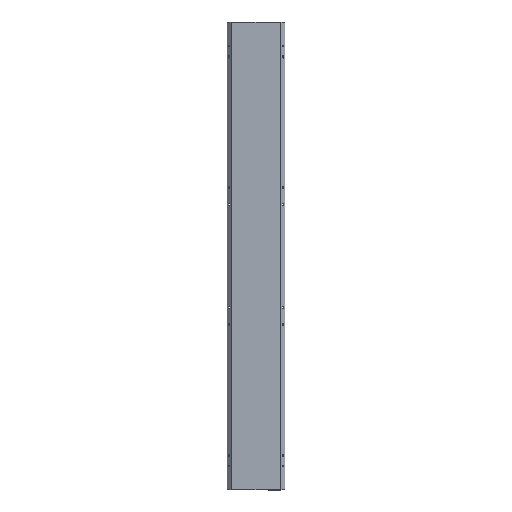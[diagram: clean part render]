
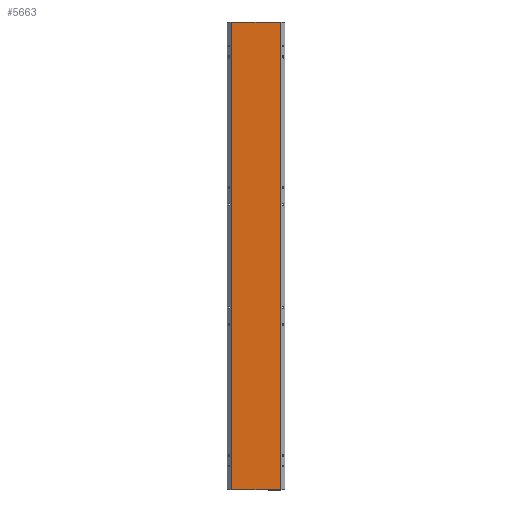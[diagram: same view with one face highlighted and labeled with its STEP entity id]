
A CAD part, top view. The second image highlights one B-rep face of the part: STEP entity #5663.
In plain terms, the highlighted planar face has unit normal (0, 0, 1).
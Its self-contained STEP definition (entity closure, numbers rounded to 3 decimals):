
#53 = CARTESIAN_POINT ( 'NONE',  ( -111.5, 1070.5, 0. ) ) ;
#116 = ORIENTED_EDGE ( 'NONE', *, *, #7389, .T. ) ;
#653 = VECTOR ( 'NONE', #6129, 1000. ) ;
#954 = CARTESIAN_POINT ( 'NONE',  ( -111.5, -1070.5, 0. ) ) ;
#1280 = ORIENTED_EDGE ( 'NONE', *, *, #6674, .T. ) ;
#1494 = VECTOR ( 'NONE', #5972, 1000. ) ;
#1865 = FACE_OUTER_BOUND ( 'NONE', #4520, .T. ) ;
#2022 = CARTESIAN_POINT ( 'NONE',  ( 111.5, -1070.5, 0. ) ) ;
#2151 = LINE ( 'NONE', #954, #1494 ) ;
#2627 = CARTESIAN_POINT ( 'NONE',  ( -111.5, 1070.5, 0. ) ) ;
#2714 = VERTEX_POINT ( 'NONE', #2763 ) ;
#2763 = CARTESIAN_POINT ( 'NONE',  ( -111.5, -1070.5, 0. ) ) ;
#3031 = LINE ( 'NONE', #53, #653 ) ;
#3144 = CARTESIAN_POINT ( 'NONE',  ( 111.5, 1070.5, 0. ) ) ;
#3389 = EDGE_CURVE ( 'NONE', #2714, #5791, #2151, .T. ) ;
#3520 = DIRECTION ( 'NONE',  ( -1., 0., 0. ) ) ;
#3784 = EDGE_CURVE ( 'NONE', #4968, #2714, #7012, .T. ) ;
#3942 = CARTESIAN_POINT ( 'NONE',  ( -111.5, -1070.5, 0. ) ) ;
#4019 = DIRECTION ( 'NONE',  ( 0., -1., 0. ) ) ;
#4171 = DIRECTION ( 'NONE',  ( 0., 1., 0. ) ) ;
#4361 = PLANE ( 'NONE',  #5744 ) ;
#4520 = EDGE_LOOP ( 'NONE', ( #1280, #116, #6683, #5739 ) ) ;
#4751 = LINE ( 'NONE', #7203, #7787 ) ;
#4968 = VERTEX_POINT ( 'NONE', #2627 ) ;
#4970 = DIRECTION ( 'NONE',  ( 0., 0., -1. ) ) ;
#5343 = VERTEX_POINT ( 'NONE', #3144 ) ;
#5531 = CARTESIAN_POINT ( 'NONE',  ( 0., 0., 0. ) ) ;
#5663 = ADVANCED_FACE ( 'NONE', ( #1865 ), #4361, .F. ) ;
#5739 = ORIENTED_EDGE ( 'NONE', *, *, #3389, .T. ) ;
#5744 = AXIS2_PLACEMENT_3D ( 'NONE', #5531, #4970, #3520 ) ;
#5791 = VERTEX_POINT ( 'NONE', #2022 ) ;
#5972 = DIRECTION ( 'NONE',  ( 1., 0., 0. ) ) ;
#6129 = DIRECTION ( 'NONE',  ( -1., 0., 0. ) ) ;
#6674 = EDGE_CURVE ( 'NONE', #5791, #5343, #4751, .T. ) ;
#6683 = ORIENTED_EDGE ( 'NONE', *, *, #3784, .T. ) ;
#7012 = LINE ( 'NONE', #3942, #7244 ) ;
#7203 = CARTESIAN_POINT ( 'NONE',  ( 111.5, -1070.5, 0. ) ) ;
#7244 = VECTOR ( 'NONE', #4019, 1000. ) ;
#7389 = EDGE_CURVE ( 'NONE', #5343, #4968, #3031, .T. ) ;
#7787 = VECTOR ( 'NONE', #4171, 1000. ) ;
